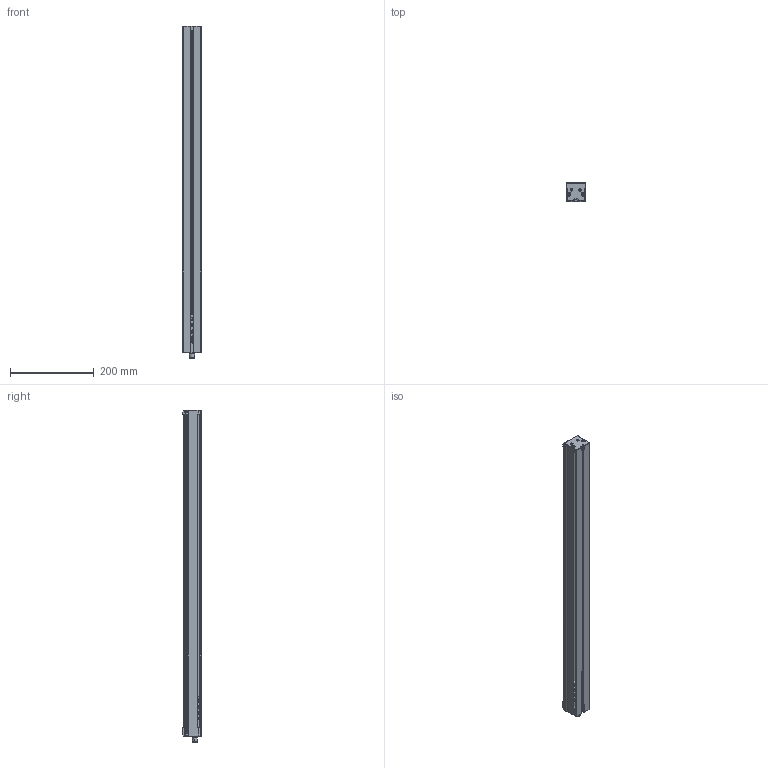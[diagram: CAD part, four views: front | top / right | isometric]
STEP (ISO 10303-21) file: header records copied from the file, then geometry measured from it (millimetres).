
FILE_DESCRIPTION (( 'STEP AP214' ), '1' );
FILE_NAME ('EBAR-HPS-750-xxx-UN_CLIENT.STEP', '2025-11-18T11:58:35', ( '' ), ( '' ), 'SwSTEP 2.0', 'SolidWorks 2025', '' );
FILE_SCHEMA (( 'AUTOMOTIVE_DESIGN' ));
Length unit declared in the file: millimetre
Products named in the file (3): EBAR-HPS-xxx-xxx-xx_CLIENT_750; EBAR-HPS-750-xxx-UN_CLIENT; M4 T-Slot Nut
Assembly tree (13 placements, depth 2):
  EBAR-HPS-750-xxx-UN_CLIENT
    EBAR-HPS-xxx-xxx-xx_CLIENT_750
    M4 T-Slot Nut  x12
Bounding box: 47.63 x 45 x 795.06 mm (x, y, z)
Volume: 1332689.8 mm3; surface area: 192288.1 mm2
Topology: 13 solids, 13 shells, 986 faces, 2564 edges, 1670 vertices
Faces by surface type: plane 484, cylinder 270, bspline 140, torus 62, sphere 16, cone 14
Entity records: 29235 total; most frequent: CARTESIAN_POINT 10271, ORIENTED_EDGE 4098, DIRECTION 3554, EDGE_CURVE 2049, VERTEX_POINT 1329, AXIS2_PLACEMENT_3D 1216, LINE 1122, VECTOR 1122
